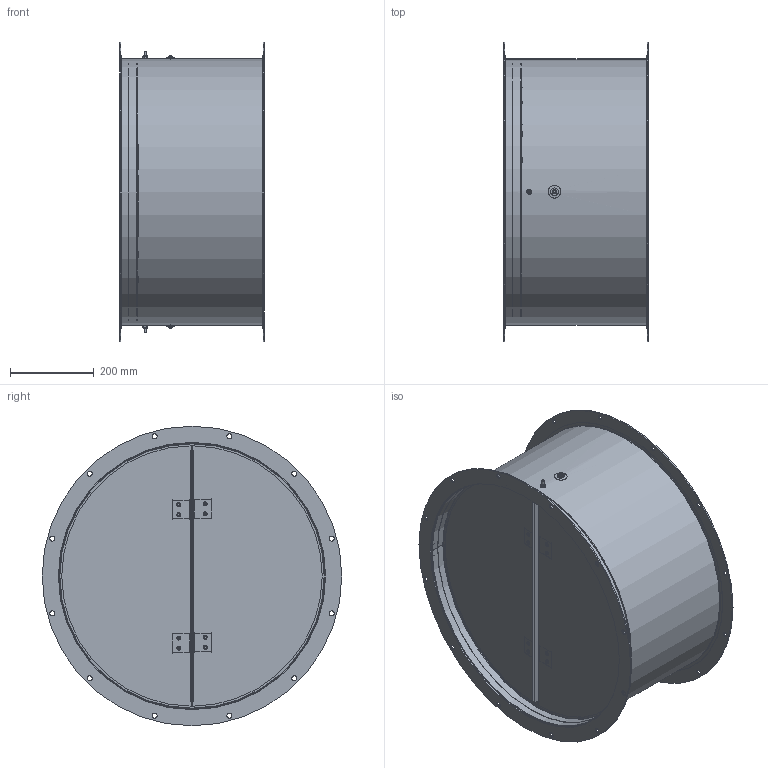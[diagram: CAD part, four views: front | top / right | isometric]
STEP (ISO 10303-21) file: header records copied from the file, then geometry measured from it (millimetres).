
FILE_DESCRIPTION(/* description */ ('Backdraft shutter KZD-905 SE'),/* implementation_level */ '2;1');
FILE_NAME(/* name */ 'Y:\VaultRobocze\Designs\2\0\04\900 570\2 004 900 570 1.stp',/* time_stamp */ '2018-03-30T10:37:23+02:00',/* author */ ('TomaszCie'),/* organization */ (''),/* preprocessor_version */ 'ST-DEVELOPER v16.13',/* originating_system */ 'Autodesk Inventor 2018',/* authorisation */ '');
FILE_SCHEMA (('AUTOMOTIVE_DESIGN { 1 0 10303 214 3 1 1 }'));
Length unit declared in the file: millimetre
Products named in the file (19): 2 004 900 570 1; DIN 6799 - 5; DIN 985 - M6; DIN 7337 - A4,8 x 8,5 x 3 BRALO; DIN 934 - M6; 2 004 900 371 1; 2 004 900 372 1; 2 004 901 570; 2 004 902 371; 2 004 901 571; 2 004 901 573; 2 004 901 572; 2 004 900 366; DIN 9021 - 6,4; DIN 439 - M6; DIN 933 - M6  x 30; DIN 125 - A 6,4; Wibroizolator RFHT; Sprężyna skrętna fi1 EN10270-
1 L=26mm, H=50mm D=fi6
Assembly tree (41 placements, depth 3):
  2 004 900 570 1
    DIN 985 - M6  x2
    DIN 125 - A 6,4  x5
    DIN 6799 - 5  x2
    DIN 7337 - A4,8 x 8,5 x 3 BRALO  x8
    DIN 934 - M6
    2 004 900 371 1
    2 004 900 372 1  x2
    2 004 901 570
      2 004 902 371  x2
      2 004 901 571
      2 004 901 573
      2 004 901 572
    2 004 900 366  x4
    DIN 9021 - 6,4  x2
    DIN 439 - M6  x2
    DIN 933 - M6  x 30  x2
    Wibroizolator RFHT  x2
    Sprężyna skrętna fi1 EN10270-
1 L=26mm, H=50mm D=fi6  x2
Bounding box: 345 x 714 x 714 mm (x, y, z)
Volume: 1325139.8 mm3; surface area: 2608162.7 mm2
Topology: 44 solids, 44 shells, 580 faces, 1297 edges, 831 vertices
Faces by surface type: plane 293, cylinder 223, cone 40, torus 14, bspline 10
Full cylindrical faces by diameter (mm): 1 x4, 4.8 x8, 4.9 x8, 4.917 x5, 5 x2, 5.2 x8, 5.459 x2, 6 x5, 6.4 x7, 6.5 x10, 8.1 x2, 8.5 x2, 8.7 x2, 8.9 x2, 9.5 x8, 12 x29, 18 x2, 30 x2, 637 x2, 714 x2
Entity records: 10562 total; most frequent: CARTESIAN_POINT 4042, DIRECTION 1315, ORIENTED_EDGE 1024, AXIS2_PLACEMENT_3D 549, EDGE_CURVE 512, EDGE_LOOP 399, VERTEX_POINT 363, FACE_OUTER_BOUND 262
